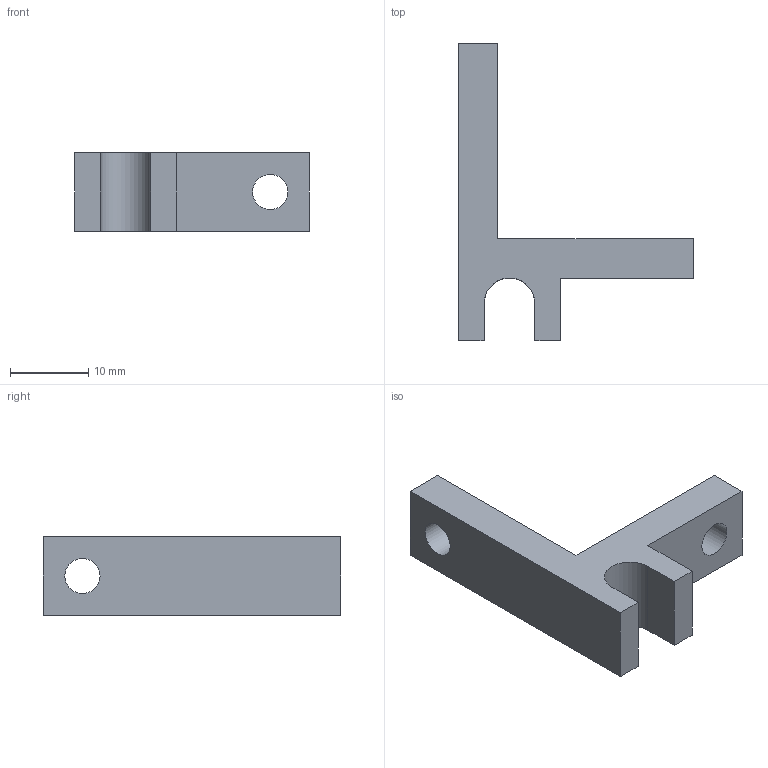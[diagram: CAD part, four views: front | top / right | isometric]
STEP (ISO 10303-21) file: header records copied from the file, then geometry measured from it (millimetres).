
FILE_DESCRIPTION(/* description */ (''),/* implementation_level */ '2;1');
FILE_NAME(/* name */ '5OM122B1.01.stp',/* time_stamp */ '2026-06-03T07:12:05+03:00',/* author */ ('dsgn33'),/* organization */ (''),/* preprocessor_version */ 'ST-DEVELOPER v20',/* originating_system */ 'Autodesk Inventor 2025',/* authorisation */ '');
FILE_SCHEMA (('AUTOMOTIVE_DESIGN { 1 0 10303 214 3 1 1 }'));
Length unit declared in the file: millimetre
Products named in the file (1): 5OM122B1.01
Bounding box: 30 x 38 x 10 mm (x, y, z)
Volume: 3156.3 mm3; surface area: 2232.9 mm2
Topology: 1 solids, 1 shells, 16 faces, 42 edges, 28 vertices
Faces by surface type: plane 13, cylinder 3
Full cylindrical faces by diameter (mm): 4.5 x2
Entity records: 543 total; most frequent: CARTESIAN_POINT 87, ORIENTED_EDGE 84, DIRECTION 82, EDGE_CURVE 42, LINE 36, VECTOR 36, VERTEX_POINT 28, AXIS2_PLACEMENT_3D 23
